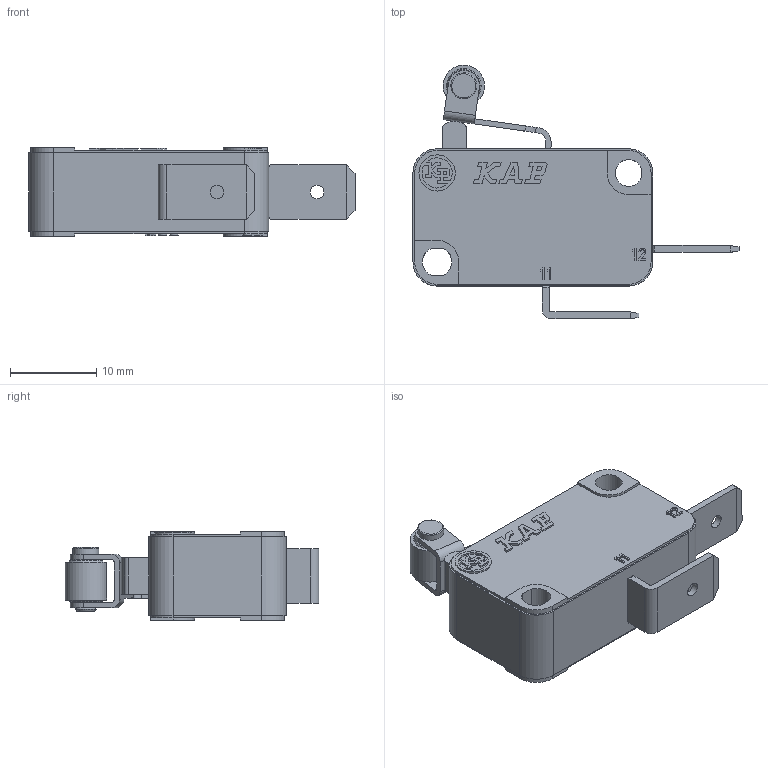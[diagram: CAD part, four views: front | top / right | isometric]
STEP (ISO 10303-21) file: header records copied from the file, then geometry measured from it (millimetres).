
FILE_DESCRIPTION(('Microrutor Miniatura Mecanismo Acao Lenta c/ Ruptura Positiva Contato NF Alavanca c/ Roldana Terminal Faston 6.3'),'2;1');
FILE_NAME('E:\WorkFolder\Bibl\3DWeb\kp_mv_mvkjea$_step.stp','2019-11-26T08:15:32',('DIE'),('KAP Componentes Eletricos Ltda.'),'Autodesk Inventor 2011','Autodesk Inventor 2011','Direitos reservados. Proibido reproducao, cedencia ou revelacao de conteudo a terceiros, salvo com autorizacao.');
FILE_SCHEMA(('AUTOMOTIVE_DESIGN { 1 0 10303 214 1 1 1 1 }'));
Length unit declared in the file: millimetre
Products named in the file (3): MVKJEA$; MVKAEA$; MV_Atuador_J1_J2
Assembly tree (2 placements, depth 2):
  MVKJEA$
    MVKAEA$
    MV_Atuador_J1_J2
Bounding box: 37.8 x 29.41 x 10.3 mm (x, y, z)
Volume: 4372.1 mm3; surface area: 2706 mm2
Topology: 3 solids, 3 shells, 328 faces, 865 edges, 571 vertices
Faces by surface type: plane 252, cylinder 64, torus 6, cone 6
Full cylindrical faces by diameter (mm): 1.4 x1, 1.6 x2, 2 x1, 2.1 x3, 3 x1, 3.1 x1, 4.2 x1, 4.8 x1
Entity records: 9983 total; most frequent: CARTESIAN_POINT 1734, ORIENTED_EDGE 1672, DIRECTION 1642, EDGE_CURVE 836, VECTOR 696, LINE 696, VERTEX_POINT 565, AXIS2_PLACEMENT_3D 473
